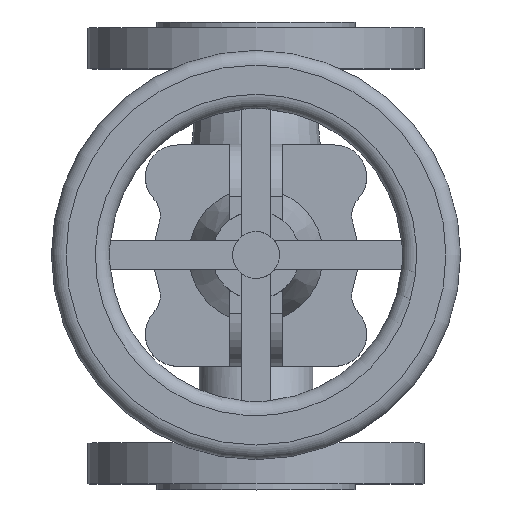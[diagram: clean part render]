
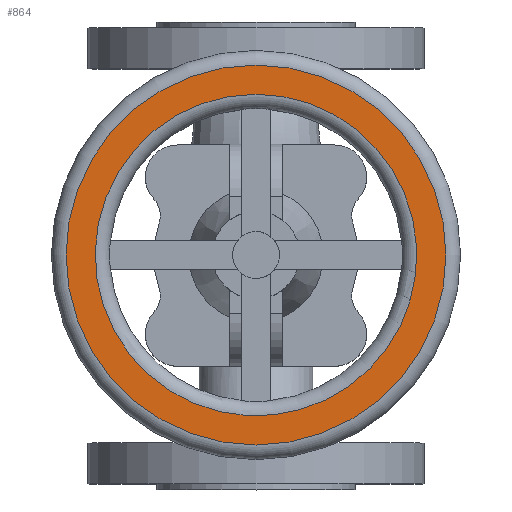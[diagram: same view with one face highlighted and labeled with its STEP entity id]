
A CAD part, top view. The second image highlights one B-rep face of the part: STEP entity #864.
In plain terms, the highlighted planar face has unit normal (0, 0, 1).
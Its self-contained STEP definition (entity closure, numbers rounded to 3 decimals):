
#864=ADVANCED_FACE('',(#2521,#2523),#2525,.T.);
#2521=FACE_BOUND('',#2522,.T.);
#2522=EDGE_LOOP('',(#32572,#32573));
#2523=FACE_BOUND('',#2524,.T.);
#2524=EDGE_LOOP('',(#32574,#32575));
#2525=PLANE('',#2526);
#2526=AXIS2_PLACEMENT_3D('',#2527,#2528,#2529);
#2527=CARTESIAN_POINT('',(0.,0.,190.));
#2528=DIRECTION('',(0.,0.,1.));
#2529=DIRECTION('',(0.,1.,0.));
#32572=ORIENTED_EDGE('',*,*,#40703,.F.);
#32573=ORIENTED_EDGE('',*,*,#40704,.F.);
#32574=ORIENTED_EDGE('',*,*,#40688,.T.);
#32575=ORIENTED_EDGE('',*,*,#40687,.T.);
#40687=EDGE_CURVE('',#41397,#41398,#41399,.T.);
#40688=EDGE_CURVE('',#41398,#41397,#41400,.T.);
#40703=EDGE_CURVE('',#41429,#41430,#41431,.T.);
#40704=EDGE_CURVE('',#41430,#41429,#41432,.T.);
#41397=VERTEX_POINT('',#43271);
#41398=VERTEX_POINT('',#43272);
#41399=CIRCLE('',#43273,55.);
#41400=CIRCLE('',#43277,55.);
#41429=VERTEX_POINT('',#43349);
#41430=VERTEX_POINT('',#43350);
#41431=CIRCLE('',#43351,65.);
#41432=CIRCLE('',#43355,65.);
#43271=CARTESIAN_POINT('',(-36.899,-40.785,190.));
#43272=CARTESIAN_POINT('',(0.,55.,190.));
#43273=AXIS2_PLACEMENT_3D('',#43274,#43275,#43276);
#43274=CARTESIAN_POINT('',(0.,0.,190.));
#43275=DIRECTION('',(0.,0.,-1.));
#43276=DIRECTION('',(-0.671,-0.742,0.));
#43277=AXIS2_PLACEMENT_3D('',#43278,#43279,#43280);
#43278=CARTESIAN_POINT('',(0.,0.,190.));
#43279=DIRECTION('',(0.,0.,-1.));
#43280=DIRECTION('',(0.,1.,0.));
#43349=CARTESIAN_POINT('',(0.,-65.,190.));
#43350=CARTESIAN_POINT('',(0.,65.,190.));
#43351=AXIS2_PLACEMENT_3D('',#43352,#43353,#43354);
#43352=CARTESIAN_POINT('',(0.,0.,190.));
#43353=DIRECTION('',(0.,0.,-1.));
#43354=DIRECTION('',(0.,-1.,0.));
#43355=AXIS2_PLACEMENT_3D('',#43356,#43357,#43358);
#43356=CARTESIAN_POINT('',(0.,0.,190.));
#43357=DIRECTION('',(0.,0.,-1.));
#43358=DIRECTION('',(0.,1.,0.));
